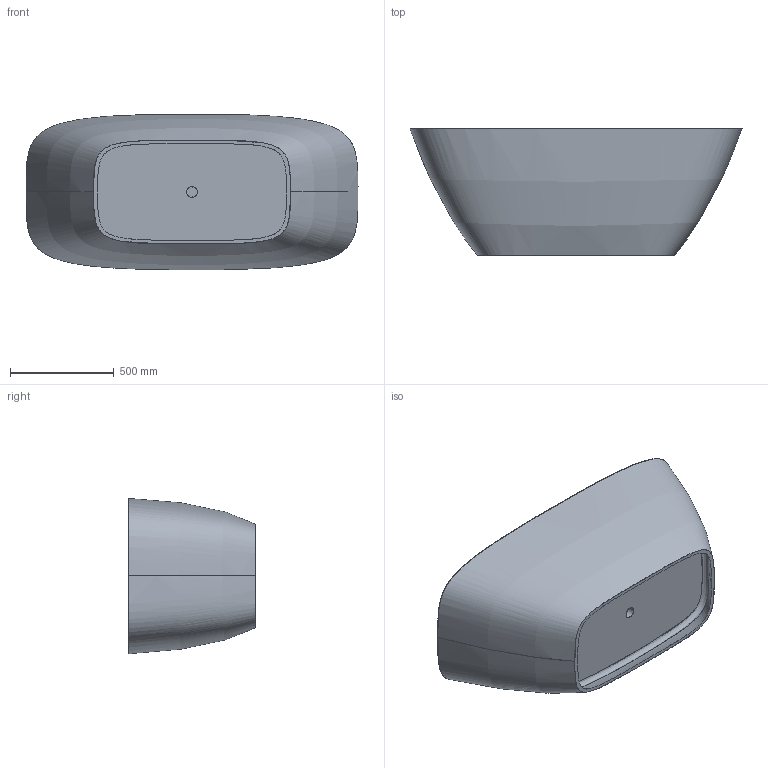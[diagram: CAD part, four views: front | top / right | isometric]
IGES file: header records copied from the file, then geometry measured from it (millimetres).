
Start section: SolidWorks IGES file using analytic representation for surfaces
Global section: file name: D:\Users\M.Szymanski\Desktop\Wanny\LaSenia\03. do przegrania\WP_LaSENIA_75x160.IGS; native system: SolidWorks 2011; preprocessor: SolidWorks 2011; author: M.Szymanski; date: 180522.120256; units: millimetre
Bounding box: 1599.5 x 610 x 749.82 mm (x, y, z)
Surface area: 5405623.2 mm2 (no closed solid volume)
Topology: 0 solids, 0 shells, 54 faces, 1847 edges, 1846 vertices
Faces by surface type: bspline 42, revolution 12
